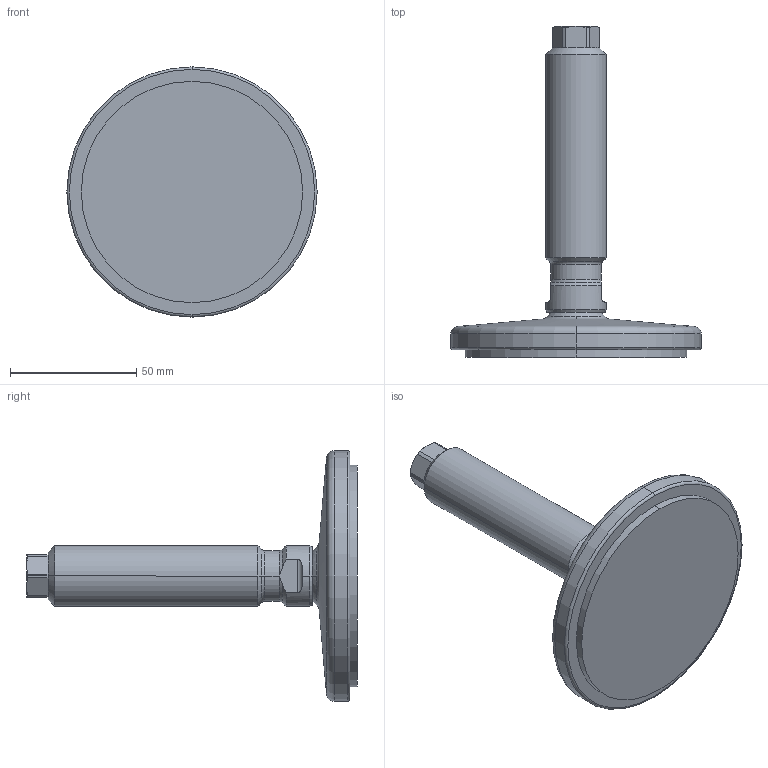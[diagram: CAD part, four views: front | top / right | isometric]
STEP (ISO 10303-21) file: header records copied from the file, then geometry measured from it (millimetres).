
FILE_DESCRIPTION (( 'STEP AP214' ), '1' );
FILE_NAME ('21-100-M24-100-D1-V.step', '2020-10-02T17:37:15', ( '' ), ( '' ), 'SwSTEP 2.0', 'SolidWorks 2019', '' );
FILE_SCHEMA (( 'AUTOMOTIVE_DESIGN' ));
Length unit declared in the file: millimetre
Products named in the file (3): WB21_Fußteller 21^WB21_V_D1-100-R14-B9 (M24); 21-100-M24-100-D1-V; WB21_Spindel_V^WB21_V_M24-100
Assembly tree (2 placements, depth 2):
  21-100-M24-100-D1-V
    WB21_Fußteller 21^WB21_V_D1-100-R14-B9 (M24)
    WB21_Spindel_V^WB21_V_M24-100
Bounding box: 99 x 130.9 x 99 mm (x, y, z)
Volume: 146318.9 mm3; surface area: 28003.1 mm2
Topology: 2 solids, 2 shells, 76 faces, 171 edges, 101 vertices
Faces by surface type: cylinder 25, plane 20, cone 17, torus 10, sphere 4
Entity records: 2399 total; most frequent: CARTESIAN_POINT 517, DIRECTION 390, ORIENTED_EDGE 342, EDGE_CURVE 171, AXIS2_PLACEMENT_3D 166, VERTEX_POINT 101, CIRCLE 85, EDGE_LOOP 78
